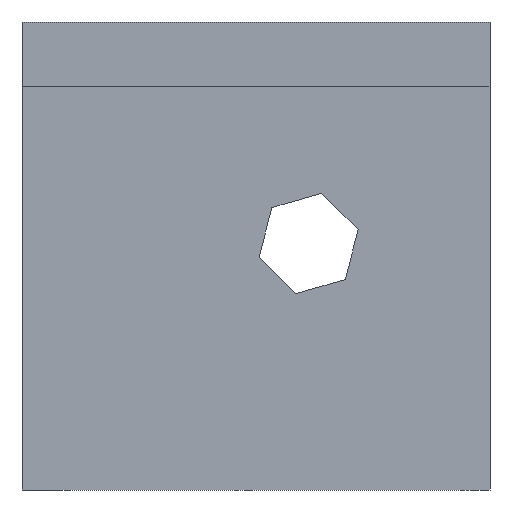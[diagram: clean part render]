
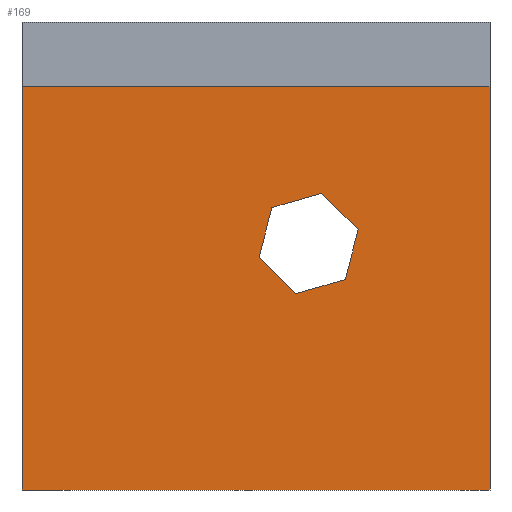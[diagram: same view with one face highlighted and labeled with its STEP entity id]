
A CAD part, front view. The second image highlights one B-rep face of the part: STEP entity #169.
In plain terms, the highlighted planar face has unit normal (0, -1, 0).
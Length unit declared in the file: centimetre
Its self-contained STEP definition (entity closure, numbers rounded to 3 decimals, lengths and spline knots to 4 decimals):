
#12 = DIRECTION ( 'NONE',  ( 0.707, 0., -0.707 ) ) ;
#17 = CARTESIAN_POINT ( 'NONE',  ( 0., 0., 861.1336 ) ) ;
#23 = DIRECTION ( 'NONE',  ( -0.707, 0., 0.707 ) ) ;
#43 = CARTESIAN_POINT ( 'NONE',  ( 1000., 0., 1000. ) ) ;
#47 = VERTEX_POINT ( 'NONE', #607 ) ;
#50 = FACE_BOUND ( 'NONE', #793, .T. ) ;
#79 = ORIENTED_EDGE ( 'NONE', *, *, #597, .F. ) ;
#84 = VERTEX_POINT ( 'NONE', #254 ) ;
#86 = EDGE_CURVE ( 'NONE', #891, #357, #241, .T. ) ;
#116 = CARTESIAN_POINT ( 'NONE',  ( 640.5222, 0., 633.9889 ) ) ;
#123 = DIRECTION ( 'NONE',  ( -0.248, 0., -0.969 ) ) ;
#138 = PLANE ( 'NONE',  #758 ) ;
#169 = ADVANCED_FACE ( 'NONE', ( #50, #414 ), #138, .F. ) ;
#173 = ORIENTED_EDGE ( 'NONE', *, *, #711, .F. ) ;
#180 = ORIENTED_EDGE ( 'NONE', *, *, #770, .F. ) ;
#185 = CARTESIAN_POINT ( 'NONE',  ( 718.1919, 0., 556.3192 ) ) ;
#230 = CARTESIAN_POINT ( 'NONE',  ( 691.0018, 0., 449.8884 ) ) ;
#241 = LINE ( 'NONE', #375, #269 ) ;
#254 = CARTESIAN_POINT ( 'NONE',  ( 584.328, 0., 419.3132 ) ) ;
#260 = ORIENTED_EDGE ( 'NONE', *, *, #86, .T. ) ;
#269 = VECTOR ( 'NONE', #318, 100. ) ;
#279 = LINE ( 'NONE', #288, #477 ) ;
#281 = VECTOR ( 'NONE', #517, 100. ) ;
#288 = CARTESIAN_POINT ( 'NONE',  ( 506.6583, 0., 496.9829 ) ) ;
#298 = CARTESIAN_POINT ( 'NONE',  ( 718.1919, 0., 556.3192 ) ) ;
#306 = EDGE_CURVE ( 'NONE', #47, #384, #543, .T. ) ;
#318 = DIRECTION ( 'NONE',  ( -1., 0., 0. ) ) ;
#320 = CARTESIAN_POINT ( 'NONE',  ( 1000., 0., 861.1336 ) ) ;
#323 = VECTOR ( 'NONE', #752, 100. ) ;
#326 = DIRECTION ( 'NONE',  ( 0., 0., -1. ) ) ;
#350 = CARTESIAN_POINT ( 'NONE',  ( 0., 0., 0. ) ) ;
#355 = LINE ( 'NONE', #847, #606 ) ;
#357 = VERTEX_POINT ( 'NONE', #17 ) ;
#362 = VECTOR ( 'NONE', #23, 100. ) ;
#365 = VECTOR ( 'NONE', #625, 100. ) ;
#375 = CARTESIAN_POINT ( 'NONE',  ( 1000., 0., 861.1336 ) ) ;
#384 = VERTEX_POINT ( 'NONE', #714 ) ;
#387 = ORIENTED_EDGE ( 'NONE', *, *, #542, .T. ) ;
#388 = DIRECTION ( 'NONE',  ( -0.961, 0., -0.276 ) ) ;
#410 = CARTESIAN_POINT ( 'NONE',  ( 0., 0., 1000. ) ) ;
#414 = FACE_OUTER_BOUND ( 'NONE', #879, .T. ) ;
#452 = VECTOR ( 'NONE', #326, 100. ) ;
#458 = LINE ( 'NONE', #43, #323 ) ;
#472 = ORIENTED_EDGE ( 'NONE', *, *, #669, .F. ) ;
#477 = VECTOR ( 'NONE', #12, 100. ) ;
#488 = LINE ( 'NONE', #350, #365 ) ;
#492 = ORIENTED_EDGE ( 'NONE', *, *, #531, .F. ) ;
#497 = CARTESIAN_POINT ( 'NONE',  ( 691.0018, 0., 449.8884 ) ) ;
#506 = LINE ( 'NONE', #298, #362 ) ;
#517 = DIRECTION ( 'NONE',  ( 0.248, 0., 0.969 ) ) ;
#524 = LINE ( 'NONE', #116, #859 ) ;
#531 = EDGE_CURVE ( 'NONE', #384, #84, #279, .T. ) ;
#534 = ORIENTED_EDGE ( 'NONE', *, *, #750, .T. ) ;
#542 = EDGE_CURVE ( 'NONE', #705, #733, #488, .T. ) ;
#543 = LINE ( 'NONE', #759, #791 ) ;
#544 = ORIENTED_EDGE ( 'NONE', *, *, #306, .F. ) ;
#547 = DIRECTION ( 'NONE',  ( 0.961, 0., 0.276 ) ) ;
#574 = CARTESIAN_POINT ( 'NONE',  ( 0., 0., 0. ) ) ;
#583 = CARTESIAN_POINT ( 'NONE',  ( 1000., 0., 0. ) ) ;
#597 = EDGE_CURVE ( 'NONE', #84, #650, #355, .T. ) ;
#606 = VECTOR ( 'NONE', #547, 100. ) ;
#607 = CARTESIAN_POINT ( 'NONE',  ( 533.8484, 0., 603.4137 ) ) ;
#609 = CARTESIAN_POINT ( 'NONE',  ( 0., 0., 1000. ) ) ;
#625 = DIRECTION ( 'NONE',  ( 1., 0., 0. ) ) ;
#650 = VERTEX_POINT ( 'NONE', #497 ) ;
#669 = EDGE_CURVE ( 'NONE', #802, #761, #506, .T. ) ;
#693 = DIRECTION ( 'NONE',  ( 0., 0., 1. ) ) ;
#705 = VERTEX_POINT ( 'NONE', #574 ) ;
#711 = EDGE_CURVE ( 'NONE', #650, #802, #858, .T. ) ;
#714 = CARTESIAN_POINT ( 'NONE',  ( 506.6583, 0., 496.9829 ) ) ;
#733 = VERTEX_POINT ( 'NONE', #583 ) ;
#750 = EDGE_CURVE ( 'NONE', #357, #705, #817, .T. ) ;
#752 = DIRECTION ( 'NONE',  ( 0., 0., -1. ) ) ;
#758 = AXIS2_PLACEMENT_3D ( 'NONE', #410, #765, #693 ) ;
#759 = CARTESIAN_POINT ( 'NONE',  ( 533.8484, 0., 603.4137 ) ) ;
#761 = VERTEX_POINT ( 'NONE', #811 ) ;
#765 = DIRECTION ( 'NONE',  ( 0., 1., 0. ) ) ;
#770 = EDGE_CURVE ( 'NONE', #891, #733, #458, .T. ) ;
#791 = VECTOR ( 'NONE', #123, 100. ) ;
#793 = EDGE_LOOP ( 'NONE', ( #472, #173, #79, #492, #544, #837 ) ) ;
#802 = VERTEX_POINT ( 'NONE', #185 ) ;
#811 = CARTESIAN_POINT ( 'NONE',  ( 640.5222, 0., 633.9889 ) ) ;
#817 = LINE ( 'NONE', #609, #452 ) ;
#822 = EDGE_CURVE ( 'NONE', #761, #47, #524, .T. ) ;
#837 = ORIENTED_EDGE ( 'NONE', *, *, #822, .F. ) ;
#847 = CARTESIAN_POINT ( 'NONE',  ( 584.328, 0., 419.3132 ) ) ;
#858 = LINE ( 'NONE', #230, #281 ) ;
#859 = VECTOR ( 'NONE', #388, 100. ) ;
#879 = EDGE_LOOP ( 'NONE', ( #180, #260, #534, #387 ) ) ;
#891 = VERTEX_POINT ( 'NONE', #320 ) ;
